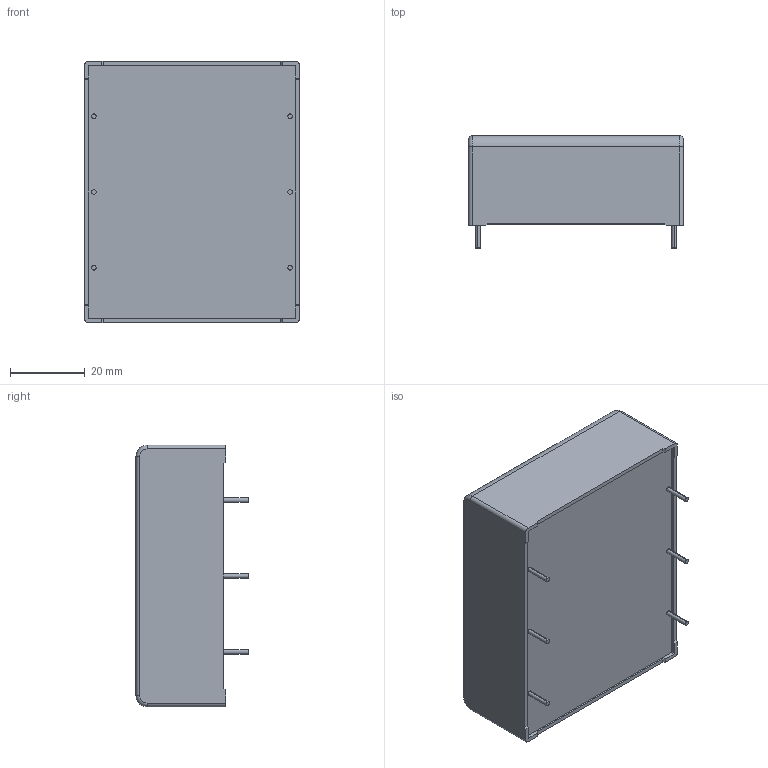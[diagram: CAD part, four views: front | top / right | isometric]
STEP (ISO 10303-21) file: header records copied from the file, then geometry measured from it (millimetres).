
FILE_DESCRIPTION (( 'STEP AP214' ), '1' );
FILE_NAME ('MKP 1848Se 675 50+Y6F.STEP', '2022-10-26T16:00:04', ( '' ), ( '' ), 'SwSTEP 2.0', 'SolidWorks 2020', '' );
FILE_SCHEMA (( 'AUTOMOTIVE_DESIGN' ));
Length unit declared in the file: millimetre
Products named in the file (1): MKP 1848Se 675 50+Y6F
Bounding box: 57.5 x 30 x 70 mm (x, y, z)
Volume: 92507.4 mm3; surface area: 14103.1 mm2
Topology: 1 solids, 1 shells, 128 faces, 331 edges, 218 vertices
Faces by surface type: plane 84, cylinder 24, bspline 16, torus 4
Entity records: 4609 total; most frequent: CARTESIAN_POINT 1502, ORIENTED_EDGE 662, DIRECTION 577, EDGE_CURVE 331, LINE 247, VECTOR 247, VERTEX_POINT 218, AXIS2_PLACEMENT_3D 165
